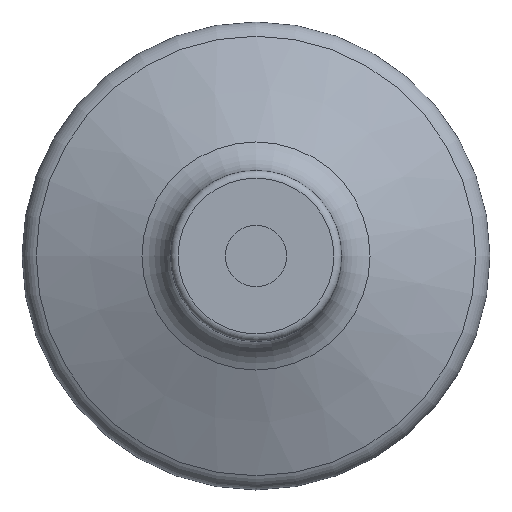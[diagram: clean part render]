
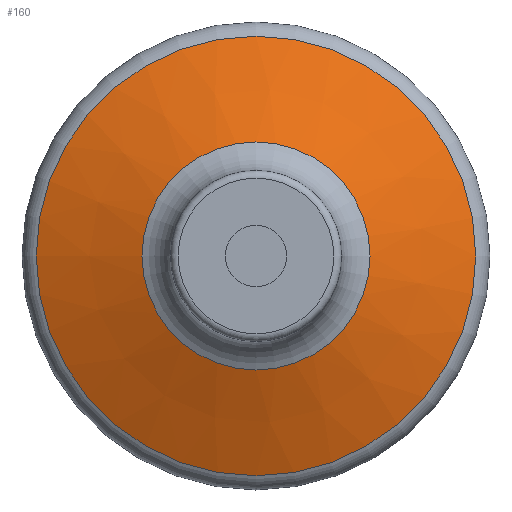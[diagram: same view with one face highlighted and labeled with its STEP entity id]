
A CAD part, left-side view. The second image highlights one B-rep face of the part: STEP entity #160.
In plain terms, the highlighted conical face has half-angle 67.555 degrees and reference radius 19.898 mm.
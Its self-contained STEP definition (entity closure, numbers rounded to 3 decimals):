
#15=CONICAL_SURFACE('',#188,19.898,67.555);
#29=FACE_BOUND('',#62,.T.);
#42=FACE_OUTER_BOUND('',#61,.T.);
#61=EDGE_LOOP('',(#131));
#62=EDGE_LOOP('',(#132));
#85=CIRCLE('',#187,14.859);
#86=CIRCLE('',#189,28.645);
#99=VERTEX_POINT('',#281);
#100=VERTEX_POINT('',#284);
#113=EDGE_CURVE('',#99,#99,#85,.T.);
#114=EDGE_CURVE('',#100,#100,#86,.T.);
#131=ORIENTED_EDGE('',*,*,#114,.F.);
#132=ORIENTED_EDGE('',*,*,#113,.F.);
#160=ADVANCED_FACE('',(#42,#29),#15,.T.);
#187=AXIS2_PLACEMENT_3D('',#282,#226,#227);
#188=AXIS2_PLACEMENT_3D('',#283,#228,#229);
#189=AXIS2_PLACEMENT_3D('',#285,#230,#231);
#226=DIRECTION('center_axis',(-1.,0.,0.));
#227=DIRECTION('ref_axis',(0.,-1.,0.));
#228=DIRECTION('center_axis',(1.,0.,0.));
#229=DIRECTION('ref_axis',(0.,1.,0.));
#230=DIRECTION('center_axis',(1.,0.,0.));
#231=DIRECTION('ref_axis',(0.,1.,0.));
#281=CARTESIAN_POINT('',(-13.089,0.693,0.));
#282=CARTESIAN_POINT('Origin',(-13.089,-14.166,0.));
#283=CARTESIAN_POINT('Origin',(-11.007,-14.166,0.));
#284=CARTESIAN_POINT('',(-7.394,14.48,0.));
#285=CARTESIAN_POINT('Origin',(-7.394,-14.166,0.));
